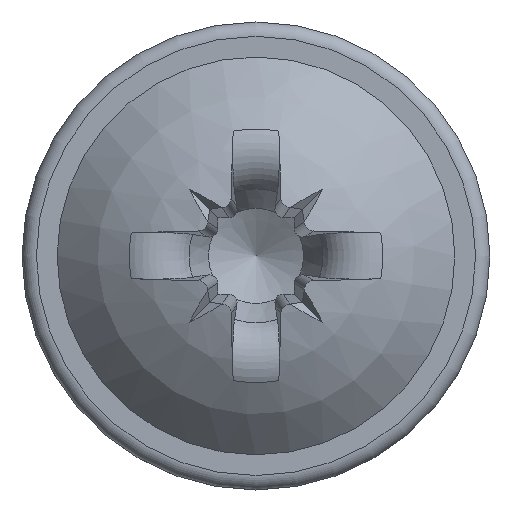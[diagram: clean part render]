
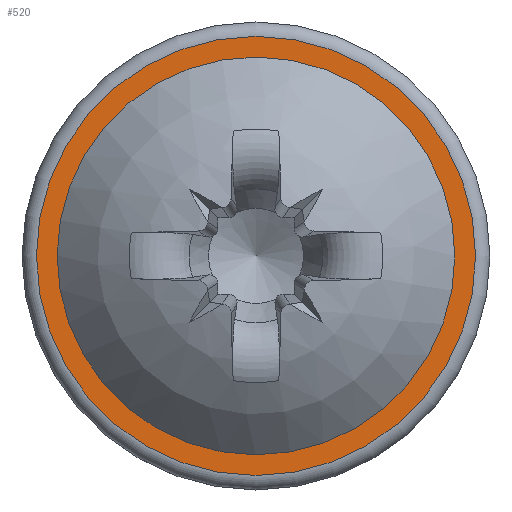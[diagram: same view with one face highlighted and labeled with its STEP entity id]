
A CAD part, top view. The second image highlights one B-rep face of the part: STEP entity #520.
In plain terms, the highlighted planar face has unit normal (0, 0, 1).
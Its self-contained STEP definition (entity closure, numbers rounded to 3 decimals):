
#156=PLANE('',#2777);
#494=FACE_BOUND('',#872,.T.);
#495=FACE_BOUND('',#873,.T.);
#520=ADVANCED_FACE('',(#494,#495),#156,.F.);
#872=EDGE_LOOP('',(#1202));
#873=EDGE_LOOP('',(#1203));
#1044=CIRCLE('',#2735,2.763);
#1079=CIRCLE('',#2776,3.05);
#1202=ORIENTED_EDGE('',*,*,#2233,.T.);
#1203=ORIENTED_EDGE('',*,*,#2182,.F.);
#1942=VERTEX_POINT('',#5915);
#1991=VERTEX_POINT('',#6237);
#2182=EDGE_CURVE('',#1942,#1942,#1044,.T.);
#2233=EDGE_CURVE('',#1991,#1991,#1079,.T.);
#2735=AXIS2_PLACEMENT_3D('',#5914,#2846,#2847);
#2776=AXIS2_PLACEMENT_3D('',#6236,#2929,#2930);
#2777=AXIS2_PLACEMENT_3D('',#6238,#2931,#2932);
#2846=DIRECTION('',(0.,0.,1.));
#2847=DIRECTION('',(1.,0.,0.));
#2929=DIRECTION('',(0.,0.,1.));
#2930=DIRECTION('',(-1.,0.,0.));
#2931=DIRECTION('',(0.,0.,-1.));
#2932=DIRECTION('',(-1.,0.,0.));
#5914=CARTESIAN_POINT('',(0.,0.,0.8));
#5915=CARTESIAN_POINT('',(2.763,0.,0.8));
#6236=CARTESIAN_POINT('',(0.,0.,0.8));
#6237=CARTESIAN_POINT('',(-3.05,0.,0.8));
#6238=CARTESIAN_POINT('',(0.,3.25,0.8));
